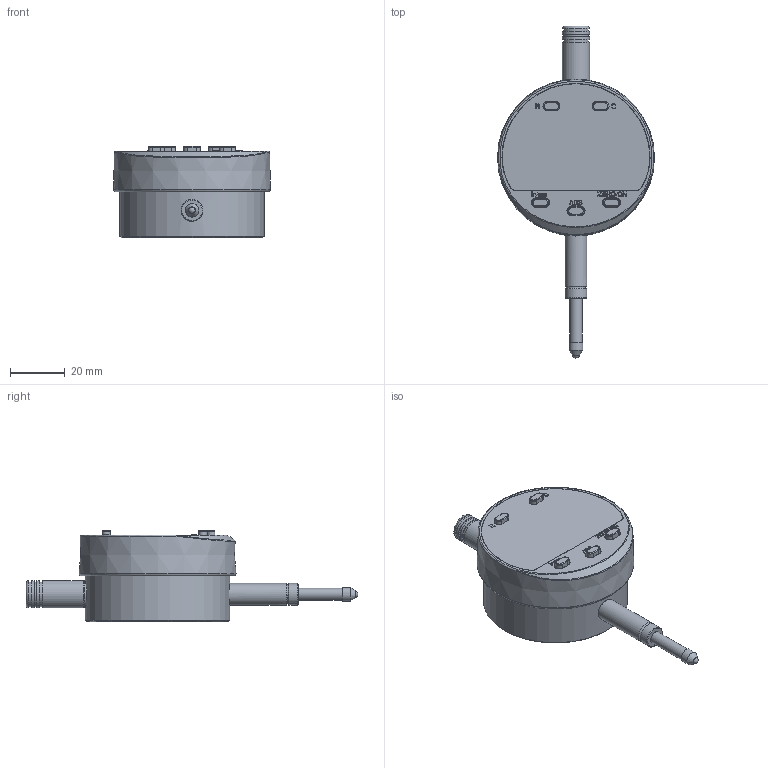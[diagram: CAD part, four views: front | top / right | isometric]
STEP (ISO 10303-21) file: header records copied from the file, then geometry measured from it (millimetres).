
FILE_DESCRIPTION(/* description */ (''),/* implementation_level */ '2;1');
FILE_NAME(/* name */ '量准半寸量表示意图.stp',/* time_stamp */ '2024-05-27T14:15:36+08:00',/* author */ (''),/* organization */ (''),/* preprocessor_version */ 'ST-DEVELOPER v16.7',/* originating_system */ 'SIEMENS PLM Software NX 1919',/* authorisation */ '');
FILE_SCHEMA (('AUTOMOTIVE_DESIGN { 1 0 10303 214 3 1 1 1 }'));
Length unit declared in the file: millimetre
Products named in the file (1): jz65EC77B74fu0
Bounding box: 57.45 x 121.49 x 33.4 mm (x, y, z)
Volume: 77539.9 mm3; surface area: 23817 mm2
Topology: 3 solids, 51 shells, 368 faces, 1684 edges, 1419 vertices
Faces by surface type: plane 171, cylinder 104, cone 54, torus 23, bspline 11, sphere 3, extrusion 2
Full cylindrical faces by diameter (mm): 4.5 x2, 5 x1, 8 x2, 9 x3, 10 x4, 52.8 x1
Entity records: 20711 total; most frequent: CARTESIAN_POINT 8059, ORIENTED_EDGE 2432, DIRECTION 1664, EDGE_CURVE 1650, VERTEX_POINT 1397, B_SPLINE_CURVE_WITH_KNOTS 947, AXIS2_PLACEMENT_3D 655, EDGE_LOOP 461
